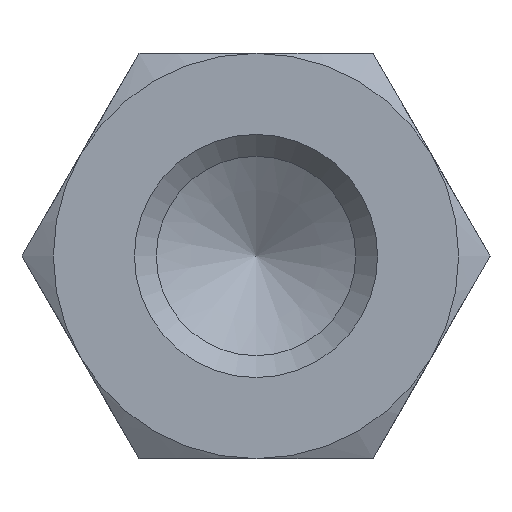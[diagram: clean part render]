
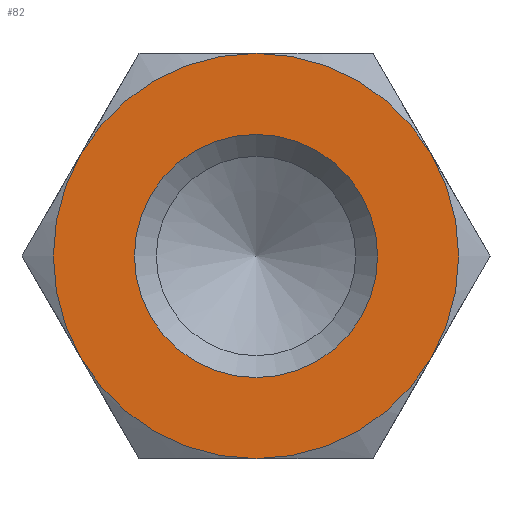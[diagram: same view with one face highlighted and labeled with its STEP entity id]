
A CAD part, left-side view. The second image highlights one B-rep face of the part: STEP entity #82.
In plain terms, the highlighted planar face has unit normal (-1, 0, 0).
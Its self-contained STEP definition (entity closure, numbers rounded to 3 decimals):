
#82 = ADVANCED_FACE( '', ( #119, #120 ), #121, .F. );
#119 = FACE_OUTER_BOUND( '', #179, .T. );
#120 = FACE_BOUND( '', #180, .T. );
#121 = PLANE( '', #181 );
#179 = EDGE_LOOP( '', ( #264, #265, #266, #267, #268, #269 ) );
#180 = EDGE_LOOP( '', ( #270 ) );
#181 = AXIS2_PLACEMENT_3D( '', #271, #272, #273 );
#264 = ORIENTED_EDGE( '', *, *, #416, .F. );
#265 = ORIENTED_EDGE( '', *, *, #417, .F. );
#266 = ORIENTED_EDGE( '', *, *, #418, .F. );
#267 = ORIENTED_EDGE( '', *, *, #409, .F. );
#268 = ORIENTED_EDGE( '', *, *, #405, .F. );
#269 = ORIENTED_EDGE( '', *, *, #406, .F. );
#270 = ORIENTED_EDGE( '', *, *, #419, .T. );
#271 = CARTESIAN_POINT( '', ( 0., 0., 0. ) );
#272 = DIRECTION( '', ( 1., 0., 0. ) );
#273 = DIRECTION( '', ( 0., 0., -1. ) );
#405 = EDGE_CURVE( '', #457, #454, #459, .T. );
#406 = EDGE_CURVE( '', #460, #457, #461, .T. );
#409 = EDGE_CURVE( '', #454, #465, #466, .T. );
#416 = EDGE_CURVE( '', #477, #460, #478, .T. );
#417 = EDGE_CURVE( '', #479, #477, #480, .T. );
#418 = EDGE_CURVE( '', #465, #479, #481, .T. );
#419 = EDGE_CURVE( '', #482, #482, #483, .T. );
#454 = VERTEX_POINT( '', #532 );
#457 = VERTEX_POINT( '', #542 );
#459 = CIRCLE( '', #549, 5. );
#460 = VERTEX_POINT( '', #550 );
#461 = CIRCLE( '', #551, 5. );
#465 = VERTEX_POINT( '', #563 );
#466 = CIRCLE( '', #564, 5. );
#477 = VERTEX_POINT( '', #597 );
#478 = CIRCLE( '', #598, 5. );
#479 = VERTEX_POINT( '', #599 );
#480 = CIRCLE( '', #600, 5. );
#481 = CIRCLE( '', #601, 5. );
#482 = VERTEX_POINT( '', #602 );
#483 = CIRCLE( '', #603, 3. );
#532 = CARTESIAN_POINT( '', ( 0., -4.33, 2.5 ) );
#542 = CARTESIAN_POINT( '', ( 0., 0., 5. ) );
#549 = AXIS2_PLACEMENT_3D( '', #739, #740, #741 );
#550 = CARTESIAN_POINT( '', ( 0., 4.33, 2.5 ) );
#551 = AXIS2_PLACEMENT_3D( '', #742, #743, #744 );
#563 = CARTESIAN_POINT( '', ( 0., -4.33, -2.5 ) );
#564 = AXIS2_PLACEMENT_3D( '', #745, #746, #747 );
#597 = CARTESIAN_POINT( '', ( 0., 4.33, -2.5 ) );
#598 = AXIS2_PLACEMENT_3D( '', #750, #751, #752 );
#599 = CARTESIAN_POINT( '', ( 0., 0., -5. ) );
#600 = AXIS2_PLACEMENT_3D( '', #753, #754, #755 );
#601 = AXIS2_PLACEMENT_3D( '', #756, #757, #758 );
#602 = CARTESIAN_POINT( '', ( 0., 0., -3. ) );
#603 = AXIS2_PLACEMENT_3D( '', #759, #760, #761 );
#739 = CARTESIAN_POINT( '', ( 0., 0., 0. ) );
#740 = DIRECTION( '', ( 1., 0., 0. ) );
#741 = DIRECTION( '', ( 0., 0., -1. ) );
#742 = CARTESIAN_POINT( '', ( 0., 0., 0. ) );
#743 = DIRECTION( '', ( 1., 0., 0. ) );
#744 = DIRECTION( '', ( 0., 0., -1. ) );
#745 = CARTESIAN_POINT( '', ( 0., 0., 0. ) );
#746 = DIRECTION( '', ( 1., 0., 0. ) );
#747 = DIRECTION( '', ( 0., 0., -1. ) );
#750 = CARTESIAN_POINT( '', ( 0., 0., 0. ) );
#751 = DIRECTION( '', ( 1., 0., 0. ) );
#752 = DIRECTION( '', ( 0., 0., -1. ) );
#753 = CARTESIAN_POINT( '', ( 0., 0., 0. ) );
#754 = DIRECTION( '', ( 1., 0., 0. ) );
#755 = DIRECTION( '', ( 0., 0., -1. ) );
#756 = CARTESIAN_POINT( '', ( 0., 0., 0. ) );
#757 = DIRECTION( '', ( 1., 0., 0. ) );
#758 = DIRECTION( '', ( 0., 0., -1. ) );
#759 = CARTESIAN_POINT( '', ( 0., 0., 0. ) );
#760 = DIRECTION( '', ( 1., 0., 0. ) );
#761 = DIRECTION( '', ( 0., 0., -1. ) );
